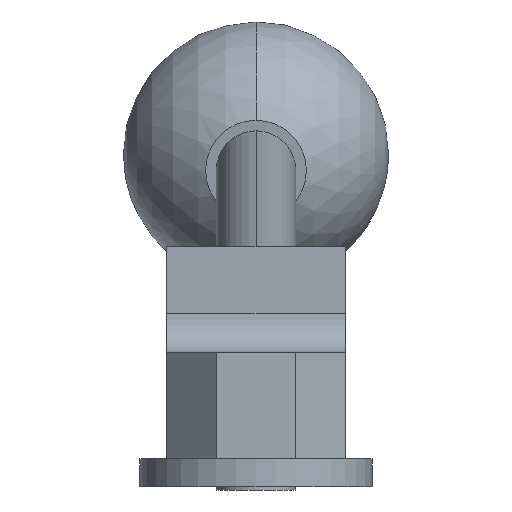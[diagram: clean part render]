
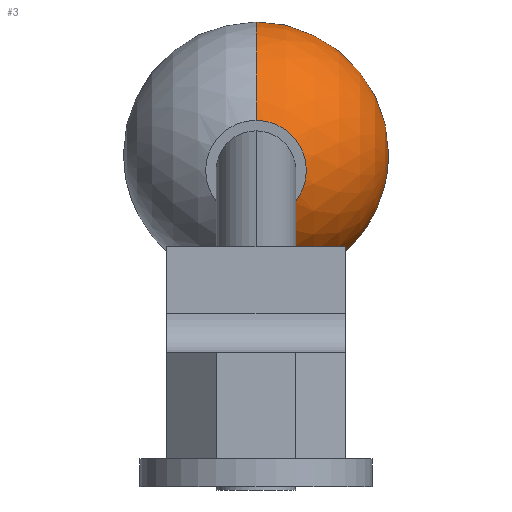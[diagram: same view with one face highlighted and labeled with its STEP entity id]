
A CAD part, front view. The second image highlights one B-rep face of the part: STEP entity #3.
In plain terms, the highlighted spherical face has radius 20 mm.
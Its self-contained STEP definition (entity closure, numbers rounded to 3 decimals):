
#3 = ADVANCED_FACE ( 'NONE', ( #267 ), #237, .T. ) ;
#62 = CIRCLE ( 'NONE', #98, 7.599 ) ;
#98 = AXIS2_PLACEMENT_3D ( 'NONE', #310, #555, #742 ) ;
#102 = ORIENTED_EDGE ( 'NONE', *, *, #524, .T. ) ;
#122 = DIRECTION ( 'NONE',  ( 0., 0., 1. ) ) ;
#127 = CARTESIAN_POINT ( 'NONE',  ( 0., 206.992, 45.939 ) ) ;
#169 = CARTESIAN_POINT ( 'NONE',  ( 0., 189.642, 35.99 ) ) ;
#176 = CARTESIAN_POINT ( 'NONE',  ( 0., 206.992, 45.939 ) ) ;
#205 = CIRCLE ( 'NONE', #632, 20. ) ;
#228 = ORIENTED_EDGE ( 'NONE', *, *, #515, .F. ) ;
#237 = SPHERICAL_SURFACE ( 'NONE', #651, 20. ) ;
#267 = FACE_OUTER_BOUND ( 'NONE', #441, .T. ) ;
#303 = CARTESIAN_POINT ( 'NONE',  ( 0., 187.658, 51.059 ) ) ;
#310 = CARTESIAN_POINT ( 'NONE',  ( 0., 188.65, 43.524 ) ) ;
#348 = DIRECTION ( 'NONE',  ( 0., 0.131, -0.991 ) ) ;
#364 = VERTEX_POINT ( 'NONE', #469 ) ;
#407 = AXIS2_PLACEMENT_3D ( 'NONE', #127, #682, #122 ) ;
#441 = EDGE_LOOP ( 'NONE', ( #673, #102, #228 ) ) ;
#466 = VERTEX_POINT ( 'NONE', #303 ) ;
#469 = CARTESIAN_POINT ( 'NONE',  ( 0., 226.821, 48.55 ) ) ;
#472 = CARTESIAN_POINT ( 'NONE',  ( 0., 206.992, 45.939 ) ) ;
#500 = VERTEX_POINT ( 'NONE', #169 ) ;
#515 = EDGE_CURVE ( 'NONE', #500, #466, #62, .T. ) ;
#524 = EDGE_CURVE ( 'NONE', #364, #466, #205, .T. ) ;
#555 = DIRECTION ( 'NONE',  ( 0., -0.991, -0.131 ) ) ;
#580 = EDGE_CURVE ( 'NONE', #364, #500, #768, .T. ) ;
#632 = AXIS2_PLACEMENT_3D ( 'NONE', #176, #793, #684 ) ;
#651 = AXIS2_PLACEMENT_3D ( 'NONE', #472, #732, #348 ) ;
#673 = ORIENTED_EDGE ( 'NONE', *, *, #580, .F. ) ;
#682 = DIRECTION ( 'NONE',  ( -1., 0., 0. ) ) ;
#684 = DIRECTION ( 'NONE',  ( 0., 0., -1. ) ) ;
#732 = DIRECTION ( 'NONE',  ( 1., 0., 0. ) ) ;
#742 = DIRECTION ( 'NONE',  ( 0., 0.131, -0.991 ) ) ;
#768 = CIRCLE ( 'NONE', #407, 20. ) ;
#793 = DIRECTION ( 'NONE',  ( 1., 0., 0. ) ) ;
